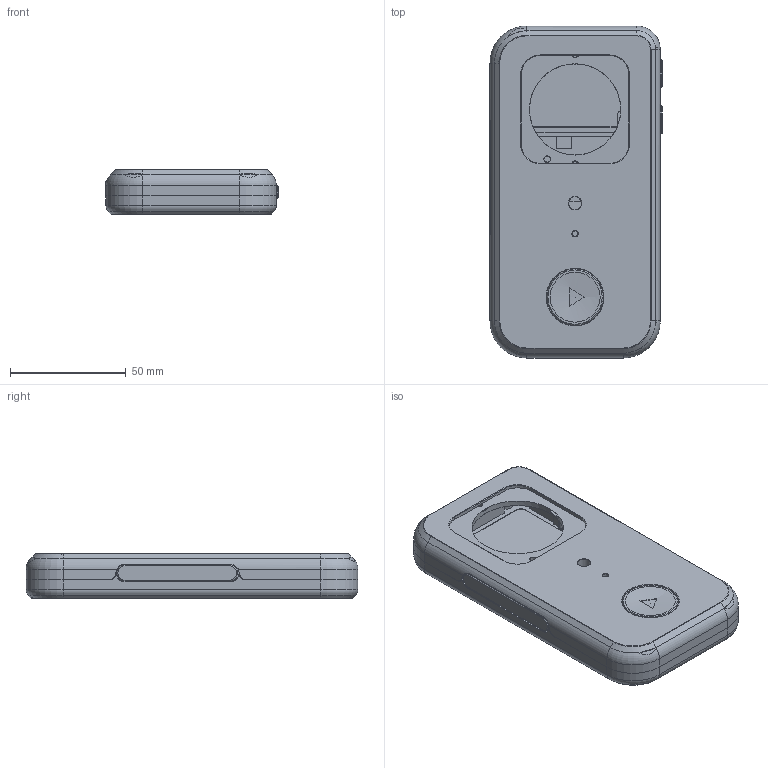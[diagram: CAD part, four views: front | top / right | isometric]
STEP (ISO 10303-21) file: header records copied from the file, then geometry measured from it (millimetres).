
FILE_DESCRIPTION(('FreeCAD Model'),'2;1');
FILE_NAME('Open CASCADE Shape Model','2026-09-20T12:15:15',('FreeCAD'),( 'FreeCAD'),'Open CASCADE STEP processor 7.8','FreeCAD','Unknown');
FILE_SCHEMA(('AUTOMOTIVE_DESIGN { 1 0 10303 214 1 1 1 1 }'));
Products named in the file (1): Open CASCADE STEP translator 7.8 1
Bounding box: 74.3 x 143.25 x 19.4 mm (x, y, z)
Volume: 70629.8 mm3; surface area: 71221.5 mm2
Topology: 22 solids, 22 shells, 2216 faces, 6343 edges, 4186 vertices
Faces by surface type: plane 1461, cylinder 466, sphere 110, cone 96, torus 68, bspline 13, revolution 2
Full cylindrical faces by diameter (mm): 0.6 x6, 0.84 x6, 2.2 x2, 2.3 x14, 2.4 x17, 2.6 x6, 2.8 x2, 2.9 x24, 3.6 x1, 4 x5, 4.1 x4, 4.4 x4, 5 x2, 5.5 x1, 5.6 x1, 6.4 x5, 6.5 x1, 6.6 x4, 7.2 x6, 8 x2, 9.4 x1, 12 x1, 18 x1, 19 x1, 19.4 x1, 21.8 x1, 24 x1, 24.5 x1, 31 x1, 34.4 x1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
Entity records: 76175 total; most frequent: CARTESIAN_POINT 17115, ORIENTED_EDGE 12608, DIRECTION 12205, EDGE_CURVE 6304, VERTEX_POINT 4186, LINE 4135, VECTOR 4135, AXIS2_PLACEMENT_3D 4034
